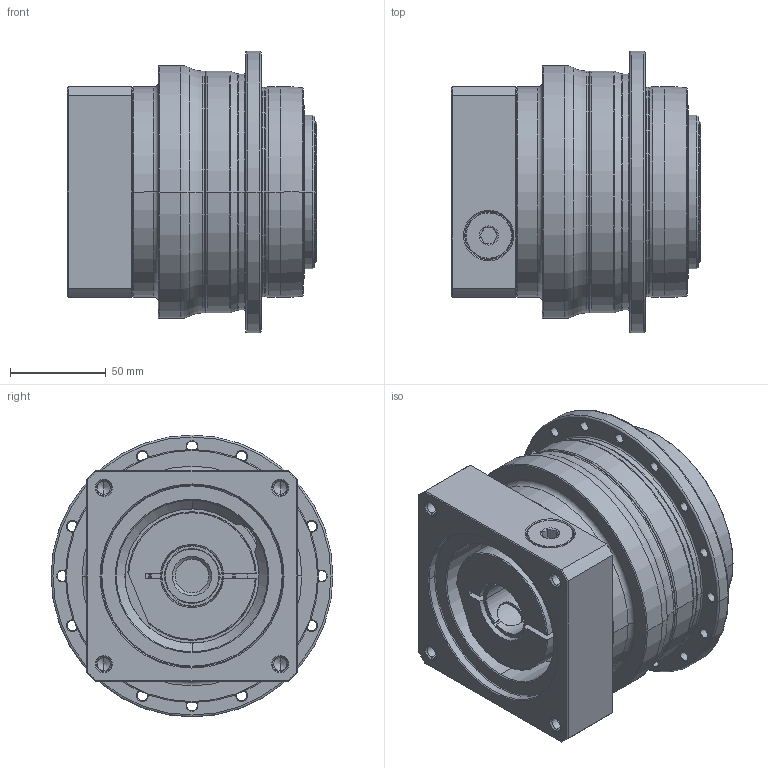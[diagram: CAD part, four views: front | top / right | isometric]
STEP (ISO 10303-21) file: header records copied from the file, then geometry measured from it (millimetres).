
FILE_DESCRIPTION((''),'2;1');
FILE_NAME('AP110_1ST_28-P0409610201_ASM','2018-05-24T',('d01226'),(''),'PRO/ENGINEER BY PARAMETRIC TECHNOLOGY CORPORATION, 2008410','PRO/ENGINEER BY PARAMETRIC TECHNOLOGY CORPORATION, 2008410','');
FILE_SCHEMA(('CONFIG_CONTROL_DESIGN'));
Length unit declared in the file: millimetre
Products named in the file (9): P0278401003; P0359401103; P1318410201; P0503600010; P0912452001; P1211400002; P0409610201; 21711418017; AP110_1ST_28-P0409610201_ASM
Assembly tree (8 placements, depth 2):
  AP110_1ST_28-P0409610201_ASM
    P0278401003
    P0359401103
    P1318410201
    P0503600010
    P0912452001
    P1211400002
    P0409610201
    21711418017
Bounding box: 130 x 147 x 147 mm (x, y, z)
Volume: 1218235.6 mm3; surface area: 215779.4 mm2
Topology: 9 solids, 30 shells, 560 faces, 1301 edges, 802 vertices
Faces by surface type: cylinder 231, cone 145, plane 99, torus 71, bspline 14
Entity records: 21109 total; most frequent: CARTESIAN_POINT 7664, DIRECTION 3081, ORIENTED_EDGE 2500, AXIS2_PLACEMENT_3D 1320, EDGE_CURVE 1293, VERTEX_POINT 802, CIRCLE 747, EDGE_LOOP 685
